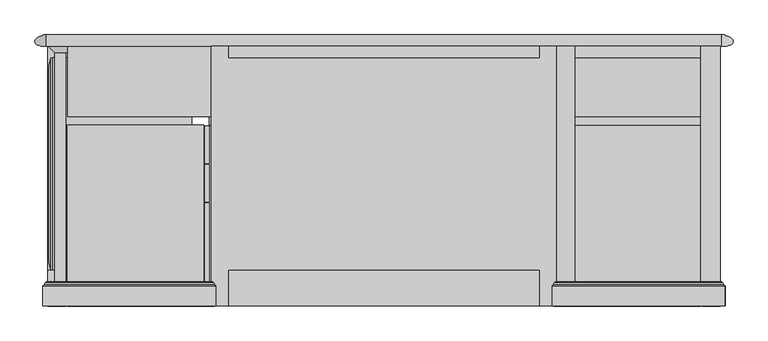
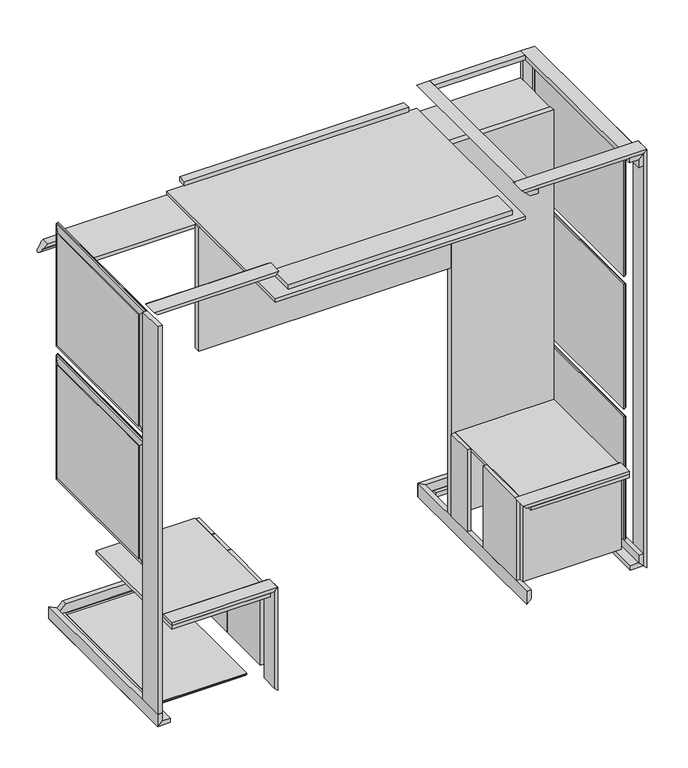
"""IFC4 building model written with IfcOpenShell, lengths in millimetres: proxy geometry, CAMBRIDGE^ADMIN 1_U-SHAPE-PARTS SOLID."""

from ifc_helpers import new_model, si_unit, frame, origin, origin_with_axes, place, context, project, spatial, polyline, circle_curve, ellipse_curve, outline, extrude, faceted_brep, source, transform, mapped, element, save
from ifc_brep_helpers import plane_surface, cylinder_surface, revolved_surface, advanced_brep


def generic_models_a3993f4f(model_context):
    return source(origin(), model_context, "Body", "SolidModel", [
        faceted_brep([(558.8, 0.0, 2266.95), (609.6, 0.0, 2266.95), (609.6, -996.95, 2266.95), (558.8, -996.95, 2266.95), (635.0, 25.4, 2292.35), (635.0, -996.95, 2292.35), (558.8, 25.4, 2292.35), (558.8, -996.95, 2292.35)], [[[0, 1, 2, 3]], [[1, 4, 5, 2]], [[4, 6, 7, 5]], [[6, 0, 3, 7]], [[3, 2, 5, 7]], [[4, 1, 0, 6]]]),
        advanced_brep(
        [(-12.7, -901.7, 2298.7), (-12.7, -904.875, 2298.7), (641.35, -904.875, 2298.7), (641.35, -901.7, 2298.7), (-19.05, -911.225, 2305.05), (647.7, -911.225, 2305.05), (-25.4, -917.575, 2311.4), (654.05, -917.575, 2311.4), (-25.4, -996.95, 2311.4), (654.05, -996.95, 2311.4), (-6.35, -901.7, 2292.35), (-6.35, -996.95, 2292.35), (635.0, -996.95, 2292.35), (635.0, -901.7, 2292.35)],
        [
            (0, 1),
            (1, 2),
            (2, 3),
            (3, 0),
            (1, 4, ellipse_curve(frame((-12.7, -911.225, 2298.7), z_axis=(0.7071067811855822, 0.0, 0.7071067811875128), x_axis=(0.7071067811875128, 0.0, -0.7071067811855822)), 8.9802561, 6.35)),
            (4, 5),
            (5, 2, ellipse_curve(frame((641.35, -911.225, 2298.7), z_axis=(-0.7071067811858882, 0.0, 0.7071067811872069), x_axis=(0.7071067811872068, 0.0, 0.7071067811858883)), 8.9802561, 6.35)),
            (4, 6, ellipse_curve(frame((-25.4, -911.225, 2311.4), z_axis=(-0.7071067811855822, 0.0, -0.7071067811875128), x_axis=(0.7071067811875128, 0.0, -0.7071067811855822)), 8.9802561, 6.35)),
            (6, 7),
            (7, 5, ellipse_curve(frame((654.05, -911.225, 2311.4), z_axis=(0.7071067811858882, 0.0, -0.7071067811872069), x_axis=(0.7071067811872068, 0.0, 0.7071067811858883)), 8.9802561, 6.35)),
            (6, 8),
            (8, 9),
            (9, 7),
            (0, 10),
            (10, 11),
            (11, 8),
            (9, 12),
            (12, 13),
            (13, 3),
            (12, 11),
            (10, 13),
        ],
        [
            plane_surface(frame((-12.7, -904.875, 2298.7), z_axis=(0.0, 0.0, 1.0), x_axis=(0.0, 1.0, 0.0))),
            cylinder_surface(frame((-12.7, -911.225, 2298.7), z_axis=(1.0, 0.0, 0.0), x_axis=(0.0, 0.0, -1.0)), 6.35),
            revolved_surface(polyline([(660.3999999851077, -911.225, 2305.05), (-31.749999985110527, -911.225, 2305.05)]), (-25.4, -911.225, 2311.4), (1.0, 0.0, 0.0)),
            plane_surface(frame((-25.4, -996.95, 2311.4), z_axis=(0.0, 0.0, 1.0), x_axis=(1.0, 0.0, 0.0))),
            plane_surface(frame((-6.35, -996.95, 2292.35), z_axis=(-0.7071067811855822, 0.0, -0.7071067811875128), x_axis=(-0.7071067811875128, 0.0, 0.7071067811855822))),
            plane_surface(frame((654.05, -996.95, 2311.4), z_axis=(0.7071067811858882, 0.0, -0.7071067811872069), x_axis=(-0.7071067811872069, 0.0, -0.7071067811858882))),
            plane_surface(frame((635.0, -996.95, 2292.35), z_axis=(0.0, 0.0, -1.0), x_axis=(-1.0, 0.0, 0.0))),
            plane_surface(frame((314.325, -996.95, 2301.875), z_axis=(0.0, -1.0, 0.0), x_axis=(0.0, 0.0, -1.0))),
            plane_surface(frame((314.325, -901.7, 2301.875), z_axis=(0.0, 1.0, 0.0), x_axis=(0.0, 0.0, 1.0))),
        ],
        [
            (0, [[1, 2, 3, 4]]),
            (1, [[5, 6, 7, -2]]),
            (2, [[8, 9, 10, -6]]),
            (3, [[-9, 11, 12, 13]]),
            (4, [[-8, -5, -1, 14, 15, 16, -11]]),
            (5, [[-10, -13, 17, 18, 19, -3, -7]]),
            (6, [[20, -15, 21, -18]]),
            (7, [[-20, -17, -12, -16]]),
            (8, [[-4, -19, -21, -14]]),
        ],
    ),
        faceted_brep([(609.6, -996.95, 2266.95), (635.0, -996.95, 2292.35), (635.0, 25.4, 2292.35), (609.6, 0.0, 2266.95), (609.6, 0.0, 2222.5), (609.6, -996.95, 2222.5), (635.0, 25.4, 2222.5), (635.0, -996.95, 2222.5)], [[[0, 1, 2, 3]], [[0, 3, 4, 5]], [[3, 2, 6, 4]], [[7, 6, 2, 1]], [[1, 0, 5, 7]], [[4, 6, 7, 5]]]),
        advanced_brep(
        [(-6.35, -901.7, 482.6), (-6.35, -904.875, 482.6), (558.8, -904.875, 482.6), (558.8, -901.7, 482.6), (-12.7, -911.225, 488.95), (558.8, -911.225, 488.95), (-19.05, -917.575, 495.3), (558.8, -917.575, 495.3), (-19.05, -996.95, 495.3), (558.8, -996.95, 495.3), (0.0, -901.7, 476.25), (0.0, -996.95, 476.25), (558.8, -996.95, 476.25), (558.8, -901.7, 476.25)],
        [
            (0, 1),
            (1, 2),
            (2, 3),
            (3, 0),
            (1, 4, ellipse_curve(frame((-6.35, -911.225, 482.6), z_axis=(0.7071067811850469, 0.0, 0.7071067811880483), x_axis=(0.707106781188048, 0.0, -0.707106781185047)), 8.9802561, 6.35)),
            (4, 5),
            (5, 2, circle_curve(frame((558.8, -911.225, 482.6), z_axis=(-1.0, 0.0, 0.0), x_axis=(0.0, 0.0, -1.0)), 6.35)),
            (4, 6, ellipse_curve(frame((-19.05, -911.225, 495.3), z_axis=(-0.7071067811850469, 0.0, -0.7071067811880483), x_axis=(0.707106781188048, 0.0, -0.707106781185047)), 8.9802561, 6.35)),
            (6, 7),
            (7, 5, circle_curve(frame((558.8, -911.225, 495.3), z_axis=(1.0, 0.0, 0.0), x_axis=(0.0, 0.0, -1.0)), 6.35)),
            (6, 8),
            (8, 9),
            (9, 7),
            (0, 10),
            (10, 11),
            (11, 8),
            (9, 12),
            (12, 13),
            (13, 3),
            (12, 11),
            (10, 13),
        ],
        [
            plane_surface(frame((-6.35, -904.875, 482.6), z_axis=(0.0, 0.0, 1.0), x_axis=(0.0, 1.0, 0.0))),
            cylinder_surface(frame((-6.35, -911.225, 482.6), z_axis=(1.0, 0.0, 0.0), x_axis=(0.0, 0.0, -1.0)), 6.35),
            revolved_surface(polyline([(558.8, -911.225, 488.95), (-25.399999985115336, -911.225, 488.95)]), (-19.05, -911.225, 495.3), (1.0, 0.0, 0.0)),
            plane_surface(frame((-19.05, -996.95, 495.3), z_axis=(0.0, 0.0, 1.0), x_axis=(1.0, 0.0, 0.0))),
            plane_surface(frame((0.0, -996.95, 476.25), z_axis=(-0.7071067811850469, 0.0, -0.7071067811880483), x_axis=(-0.7071067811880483, 0.0, 0.7071067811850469))),
            plane_surface(frame((558.8, -996.95, 495.3), z_axis=(1.0, 0.0, 0.0), x_axis=(0.0, 0.0, -1.0))),
            plane_surface(frame((558.8, -996.95, 476.25), z_axis=(0.0, 0.0, -1.0), x_axis=(-1.0, 0.0, 0.0))),
            plane_surface(frame((269.875, -996.95, 485.775), z_axis=(0.0, -1.0, 0.0), x_axis=(0.0, 0.0, -1.0))),
            plane_surface(frame((269.875, -901.7, 485.775), z_axis=(0.0, 1.0, 0.0), x_axis=(0.0, 0.0, 1.0))),
        ],
        [
            (0, [[1, 2, 3, 4]]),
            (1, [[5, 6, 7, -2]]),
            (2, [[8, 9, 10, -6]]),
            (3, [[-9, 11, 12, 13]]),
            (4, [[-8, -5, -1, 14, 15, 16, -11]]),
            (5, [[-10, -13, 17, 18, 19, -3, -7]]),
            (6, [[20, -15, 21, -18]]),
            (7, [[-20, -17, -12, -16]]),
            (8, [[-4, -19, -21, -14]]),
        ],
    ),
        faceted_brep([(609.6, -996.95, -50.8), (635.0, -996.95, -76.2), (635.0, 25.4, -76.2), (609.6, 0.0, -50.8), (565.15, 0.0, -50.8), (565.15, -996.95, -50.8), (565.15, 25.4, -76.2), (565.15, -996.95, -76.2)], [[[0, 1, 2, 3]], [[0, 3, 4, 5]], [[3, 2, 6, 4]], [[7, 6, 2, 1]], [[1, 0, 5, 7]], [[4, 6, 7, 5]]]),
        advanced_brep(
        [(-2040.3910714, 28.5587803, 2055.3589286), (-2041.525, 60.2682311, 2054.225), (669.925, 60.2682311, 2054.225), (668.7910714, 28.5587803, 2055.3589286), (-2034.4382387, 25.4, 2061.3117613), (662.8382387, 25.4, 2061.3117613), (-2041.525, 61.8557311, 2054.225), (669.925, 61.8557311, 2054.225), (-2026.6531721, 67.2686338, 2069.0968279), (655.0531721, 67.2686338, 2069.0968279), (-2023.4528814, 69.85, 2072.2971186), (651.8528814, 69.85, 2072.2971186), (641.35, 69.85, 2082.8), (641.35, 25.4, 2082.8), (-2012.95, 25.4, 2082.8), (-2012.95, 69.85, 2082.8)],
        [
            (0, 1, ellipse_curve(frame((-2041.525, 44.3932311, 2054.225), z_axis=(0.7071067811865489, 0.0, -0.7071067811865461), x_axis=(0.7071067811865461, 0.0, 0.7071067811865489)), 22.4506403, 15.875)),
            (1, 2),
            (2, 3, ellipse_curve(frame((669.925, 44.3932311, 2054.225), z_axis=(-0.7071067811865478, 0.0, -0.7071067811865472), x_axis=(0.7071067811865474, 0.0, -0.7071067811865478)), 22.4506403, 15.875)),
            (3, 0),
            (4, 0, ellipse_curve(frame((-2039.9375, 22.225, 2055.8125), z_axis=(-0.7071067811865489, 0.0, 0.7071067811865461), x_axis=(0.7071067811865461, 0.0, 0.7071067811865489)), 8.9802561, 6.35)),
            (3, 5, ellipse_curve(frame((668.3375, 22.225, 2055.8125), z_axis=(0.7071067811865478, 0.0, 0.7071067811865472), x_axis=(0.7071067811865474, 0.0, -0.7071067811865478)), 8.9802561, 6.35)),
            (5, 4),
            (1, 6),
            (6, 7),
            (7, 2),
            (6, 8),
            (8, 9),
            (9, 7),
            (8, 10, ellipse_curve(frame((-2028.825, 73.2356819, 2066.925), z_axis=(-0.7071067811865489, 0.0, 0.7071067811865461), x_axis=(0.7071067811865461, 0.0, 0.7071067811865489)), 8.9802561, 6.35)),
            (10, 11),
            (11, 9, ellipse_curve(frame((657.225, 73.2356819, 2066.925), z_axis=(0.7071067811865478, 0.0, 0.7071067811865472), x_axis=(0.7071067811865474, 0.0, -0.7071067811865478)), 8.9802561, 6.35)),
            (11, 12),
            (12, 13),
            (13, 5),
            (14, 13),
            (12, 15),
            (15, 14),
            (4, 14),
            (15, 10),
        ],
        [
            cylinder_surface(frame((-2057.4, 44.3932311, 2054.225), z_axis=(0.9999999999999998, 0.0, 0.0), x_axis=(0.0, -0.03573711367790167, -0.9993612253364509)), 15.875),
            revolved_surface(polyline([(674.687499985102, 25.400000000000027, 2061.311761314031), (-2046.287499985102, 25.400000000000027, 2061.311761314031)]), (-2057.4, 22.225, 2055.8125), (1.0, 0.0, 0.0)),
            plane_surface(frame((-2057.4, 61.8557311, 2054.225), z_axis=(0.0, 0.0, -1.0), x_axis=(0.0, -1.0, 0.0))),
            plane_surface(frame((-2057.4, 67.2686338, 2069.0968279), z_axis=(0.0, 0.9396926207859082, -0.3420201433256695), x_axis=(0.0, -0.3420201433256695, -0.9396926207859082))),
            revolved_surface(polyline([(663.5749999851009, 67.26863375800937, 2069.096827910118), (-2035.174999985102, 67.26863375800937, 2069.096827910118)]), (-2057.4, 73.2356819, 2066.925), (0.9999999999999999, 0.0, 0.0)),
            plane_surface(frame((641.35, 25.4, 2082.8), z_axis=(0.7071067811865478, 0.0, 0.7071067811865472), x_axis=(0.7071067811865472, 0.0, -0.7071067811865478))),
            plane_surface(frame((-2012.95, 25.4, 2082.8), z_axis=(0.0, 0.0, 1.0), x_axis=(1.0, 0.0, 0.0))),
            plane_surface(frame((-2057.4, 25.4, 2038.35), z_axis=(-0.7071067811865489, 0.0, 0.7071067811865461), x_axis=(0.7071067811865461, 0.0, 0.7071067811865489))),
            plane_surface(frame((-685.8, 69.85, 2060.575), z_axis=(0.0, 1.0, 0.0), x_axis=(0.0, 0.0, 1.0))),
            plane_surface(frame((-685.8, 25.4, 2060.575), z_axis=(0.0, -1.0, 0.0), x_axis=(0.0, 0.0, 1.0))),
        ],
        [
            (0, [[1, 2, 3, 4]]),
            (1, [[5, -4, 6, 7]]),
            (2, [[8, 9, 10, -2]]),
            (3, [[11, 12, 13, -9]]),
            (4, [[14, 15, 16, -12]]),
            (5, [[-6, -3, -10, -13, -16, 17, 18, 19]]),
            (6, [[20, -18, 21, 22]]),
            (7, [[-5, 23, -22, 24, -14, -11, -8, -1]]),
            (8, [[-15, -24, -21, -17]]),
            (9, [[-7, -19, -20, -23]]),
        ],
    ),
        extrude(outline(polyline([(-19.05, -50.8), (0.0, -50.8), (25.4, -76.2), (-19.05, -76.2), (-19.05, -50.8)])), frame((69.85, 0.0, 0.0), z_axis=(1.0, 0.0, 0.0), x_axis=(0.0, 1.0, 0.0)), (0.0, 0.0, 1.0), 495.3),
        advanced_brep(
        [(-1365.25, -901.7, 482.6), (-1365.25, -904.875, 482.6), (-1365.25, -904.875, -82.55), (-1365.25, -901.7, -82.55), (-1358.9, -911.225, 488.95), (-1358.9, -911.225, -88.9), (-1352.55, -917.575, 495.3), (-1352.55, -917.575, -95.25), (-1352.55, -996.95, 495.3), (-1352.55, -996.95, -95.25), (-1371.6, -901.7, 476.25), (-1371.6, -996.95, 476.25), (-1371.6, -996.95, -76.2), (-1371.6, -901.7, -76.2)],
        [
            (0, 1),
            (1, 2),
            (2, 3),
            (3, 0),
            (1, 4, ellipse_curve(frame((-1365.25, -911.225, 482.6), z_axis=(0.7071067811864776, 0.0, -0.7071067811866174), x_axis=(-0.7071067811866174, 0.0, -0.7071067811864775)), 8.9802561, 6.35)),
            (4, 5),
            (5, 2, ellipse_curve(frame((-1365.25, -911.225, -82.55), z_axis=(0.7071067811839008, 0.0, 0.7071067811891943), x_axis=(0.7071067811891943, 0.0, -0.7071067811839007)), 8.9802561, 6.35)),
            (4, 6, ellipse_curve(frame((-1352.55, -911.225, 495.3), z_axis=(-0.7071067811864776, 0.0, 0.7071067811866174), x_axis=(-0.7071067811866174, 0.0, -0.7071067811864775)), 8.9802561, 6.35)),
            (6, 7),
            (7, 5, ellipse_curve(frame((-1352.55, -911.225, -95.25), z_axis=(-0.7071067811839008, 0.0, -0.7071067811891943), x_axis=(0.7071067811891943, 0.0, -0.7071067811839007)), 8.9802561, 6.35)),
            (6, 8),
            (8, 9),
            (9, 7),
            (0, 10),
            (10, 11),
            (11, 8),
            (9, 12),
            (12, 13),
            (13, 3),
            (12, 11),
            (10, 13),
        ],
        [
            plane_surface(frame((-1365.25, -904.875, 482.6), z_axis=(1.0, 0.0, 0.0), x_axis=(0.0, 1.0, 0.0))),
            cylinder_surface(frame((-1365.25, -911.225, 482.6), z_axis=(0.0, 0.0, -1.0), x_axis=(-1.0, 0.0, 0.0)), 6.35),
            revolved_surface(polyline([(-1358.8999999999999, -911.225, -101.599999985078), (-1358.8999999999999, -911.225, 501.64999998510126)]), (-1352.55, -911.225, 495.3), (0.0, 0.0, -1.0)),
            plane_surface(frame((-1352.55, -996.95, 495.3), z_axis=(1.0, 0.0, 0.0), x_axis=(0.0, 0.0, -1.0))),
            plane_surface(frame((-1371.6, -996.95, 476.25), z_axis=(-0.7071067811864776, 0.0, 0.7071067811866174), x_axis=(0.7071067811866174, 0.0, 0.7071067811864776))),
            plane_surface(frame((-1352.55, -996.95, -95.25), z_axis=(-0.7071067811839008, 0.0, -0.7071067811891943), x_axis=(-0.7071067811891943, 0.0, 0.7071067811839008))),
            plane_surface(frame((-1371.6, -996.95, -76.2), z_axis=(-1.0, 0.0, 0.0), x_axis=(0.0, 0.0, 1.0))),
            plane_surface(frame((-1362.075, -996.95, 200.025), z_axis=(0.0, -1.0, 0.0), x_axis=(0.0, 0.0, -1.0))),
            plane_surface(frame((-1362.075, -901.7, 200.025), z_axis=(0.0, 1.0, 0.0), x_axis=(0.0, 0.0, 1.0))),
        ],
        [
            (0, [[1, 2, 3, 4]]),
            (1, [[5, 6, 7, -2]]),
            (2, [[8, 9, 10, -6]]),
            (3, [[-9, 11, 12, 13]]),
            (4, [[-8, -5, -1, 14, 15, 16, -11]]),
            (5, [[-10, -13, 17, 18, 19, -3, -7]]),
            (6, [[20, -15, 21, -18]]),
            (7, [[-20, -17, -12, -16]]),
            (8, [[-4, -19, -21, -14]]),
        ],
    ),
        faceted_brep([(609.6, 0.0, -6.35), (609.6, 0.0, -50.8), (609.6, -996.95, -50.8), (609.6, -996.95, -6.35), (635.0, 25.4, -76.2), (635.0, -996.95, -76.2), (635.0, 25.4, -6.35), (635.0, -996.95, -6.35)], [[[0, 1, 2, 3]], [[1, 4, 5, 2]], [[4, 6, 7, 5]], [[6, 0, 3, 7]], [[3, 2, 5, 7]], [[4, 1, 0, 6]]]),
        extrude(outline(polyline([(19.05, -288.13125), (19.05, -436.959375), (0.0, -436.959375), (0.0, -288.13125), (19.05, -288.13125)])), frame((0.0, 0.0, 2.38125), z_axis=(0.0, 0.0, 1.0), x_axis=(1.0, 0.0, 0.0)), (0.0, 0.0, 1.0), 471.4875),
        faceted_brep([(-1981.2, 0.0, -50.8), (-1981.2, 0.0, -6.35), (-1981.2, -996.95, -6.35), (-1981.2, -996.95, -50.8), (-2006.6, 25.4, -76.2), (-2006.6, -996.95, -76.2), (-2006.6, 25.4, -6.35), (-2006.6, -996.95, -6.35)], [[[0, 1, 2, 3]], [[4, 0, 3, 5]], [[6, 4, 5, 7]], [[1, 6, 7, 2]], [[3, 2, 7, 5]], [[0, 4, 6, 1]]]),
        extrude(outline(polyline([(635.0, 25.4), (635.0, -19.05), (609.6, -19.05), (609.6, 0.0), (635.0, 25.4)])), frame((0.0, 0.0, -6.35), z_axis=(0.0, 0.0, 1.0), x_axis=(1.0, 0.0, 0.0)), (0.0, 0.0, 1.0), 2228.85),
        faceted_brep([(635.0, -822.325, 1546.225), (631.825, -822.325, 1546.225), (631.825, -53.975, 1546.225), (635.0, -53.975, 1546.225), (623.3176131, -854.075, 1514.475), (623.3176131, -22.225, 1514.475), (615.95, -854.075, 1514.475), (615.95, -22.225, 1514.475), (635.0, -822.325, 2187.575), (631.825, -822.325, 2187.575), (623.3176131, -854.075, 2219.325), (615.95, -854.075, 2219.325), (615.95, -19.05, 1511.3), (615.95, -19.05, 2222.5), (615.95, -857.25, 2222.5), (615.95, -857.25, 1511.3), (615.95, -22.225, 2219.325), (635.0, -53.975, 2187.575), (631.825, -53.975, 2187.575), (623.3176131, -22.225, 2219.325), (609.6, -857.25, 1511.3), (609.6, -19.05, 1511.3), (609.6, -857.25, 2222.5), (609.6, -19.05, 2222.5)], [[[0, 1, 2, 3]], [[1, 4, 5, 2]], [[4, 6, 7, 5]], [[8, 9, 1, 0]], [[9, 10, 4, 1]], [[10, 11, 6, 4]], [[12, 13, 14, 15], [11, 16, 7, 6]], [[17, 18, 9, 8]], [[18, 19, 10, 9]], [[19, 16, 11, 10]], [[3, 2, 18, 17]], [[2, 5, 19, 18]], [[5, 7, 16, 19]], [[12, 15, 20, 21]], [[15, 14, 22, 20]], [[13, 12, 21, 23]], [[14, 13, 23, 22]], [[0, 3, 17, 8]], [[20, 22, 23, 21]]]),
        faceted_brep([(-2006.6, -996.95, -76.2), (-1981.2, -996.95, -50.8), (-1981.2, 0.0, -50.8), (-2006.6, 25.4, -76.2), (-1936.75, -996.95, -50.8), (-1936.75, 0.0, -50.8), (-1936.75, 25.4, -76.2), (-1936.75, -996.95, -76.2)], [[[0, 1, 2, 3]], [[2, 1, 4, 5]], [[3, 2, 5, 6]], [[6, 7, 0, 3]], [[1, 0, 7, 4]], [[6, 5, 4, 7]]]),
        extrude(outline(polyline([(22.225, -920.75), (22.225, -901.7), (558.8, -901.7), (558.8, -920.75), (22.225, -920.75)])), origin_with_axes(), (0.0, 0.0, 1.0), 457.2),
        faceted_brep([(-2003.425, -822.325, 784.225), (-2006.6, -822.325, 784.225), (-2006.6, -53.975, 784.225), (-2003.425, -53.975, 784.225), (-1994.9176131, -854.075, 752.475), (-1994.9176131, -22.225, 752.475), (-1987.55, -854.075, 752.475), (-1987.55, -22.225, 752.475), (-2003.425, -822.325, 1431.925), (-2006.6, -822.325, 1431.925), (-1994.9176131, -854.075, 1463.675), (-1987.55, -854.075, 1463.675), (-1987.55, -19.05, 1466.85), (-1987.55, -19.05, 749.3), (-1987.55, -857.25, 749.3), (-1987.55, -857.25, 1466.85), (-1987.55, -22.225, 1463.675), (-2003.425, -53.975, 1431.925), (-2006.6, -53.975, 1431.925), (-1994.9176131, -22.225, 1463.675), (-1981.2, -19.05, 749.3), (-1981.2, -857.25, 749.3), (-1981.2, -857.25, 1466.85), (-1981.2, -19.05, 1466.85)], [[[0, 1, 2, 3]], [[4, 0, 3, 5]], [[6, 4, 5, 7]], [[8, 9, 1, 0]], [[10, 8, 0, 4]], [[11, 10, 4, 6]], [[12, 13, 14, 15], [16, 11, 6, 7]], [[17, 18, 9, 8]], [[19, 17, 8, 10]], [[16, 19, 10, 11]], [[3, 2, 18, 17]], [[5, 3, 17, 19]], [[7, 5, 19, 16]], [[14, 13, 20, 21]], [[15, 14, 21, 22]], [[13, 12, 23, 20]], [[12, 15, 22, 23]], [[2, 1, 9, 18]], [[22, 21, 20, 23]]]),
        extrude(outline(polyline([(2292.35, -6.35), (2266.95, 19.05), (2266.95, 63.5), (2292.35, 63.5), (2292.35, -6.35)])), frame((0.0, -996.95, 0.0), z_axis=(0.0, 1.0, 0.0), x_axis=(0.0, 0.0, 1.0)), (0.0, 0.0, 1.0), 1022.35),
        extrude(outline(polyline([(-76.2, -857.25), (-76.2, -996.95), (-1295.4, -996.95), (-1295.4, -857.25), (-76.2, -857.25)])), frame((0.0, 0.0, 2190.75), z_axis=(0.0, 0.0, 1.0), x_axis=(1.0, 0.0, 0.0)), (0.0, 0.0, 1.0), 25.4),
        extrude(outline(polyline([(-1371.6, -254.0), (0.0, -254.0), (0.0, -285.75), (-1371.6, -285.75), (-1371.6, -254.0)])), frame((0.0, 0.0, 1428.75), z_axis=(0.0, 0.0, 1.0), x_axis=(1.0, 0.0, 0.0)), (0.0, 0.0, 1.0), 711.2),
        extrude(outline(polyline([(558.8, -285.75), (558.8, -996.95), (22.225, -996.95), (22.225, -285.75), (558.8, -285.75)])), frame((0.0, 0.0, 457.2), z_axis=(0.0, 0.0, 1.0), x_axis=(1.0, 0.0, 0.0)), (0.0, 0.0, 1.0), 19.05),
        faceted_brep([(0.0, 25.4, -76.2), (25.4, 0.0, -50.8), (25.4, -996.95, -50.8), (0.0, -996.95, -76.2), (25.4, -996.95, 0.0), (0.0, -996.95, 0.0), (25.4, 0.0, 0.0), (0.0, 25.4, 0.0)], [[[0, 1, 2, 3]], [[3, 2, 4, 5]], [[2, 1, 6, 4]], [[1, 0, 7, 6]], [[0, 3, 5, 7]], [[6, 7, 5, 4]]]),
        faceted_brep([(-1476.375, -822.325, -73.025), (-1476.375, -822.325, -76.2), (-1476.375, -53.975, -76.2), (-1476.375, -53.975, -73.025), (-1444.625, -854.075, -64.5176131), (-1444.625, -22.225, -64.5176131), (-1444.625, -854.075, -57.15), (-1444.625, -22.225, -57.15), (-1901.825, -822.325, -73.025), (-1901.825, -822.325, -76.2), (-1933.575, -854.075, -64.5176131), (-1933.575, -854.075, -57.15), (-1936.75, -19.05, -57.15), (-1441.45, -19.05, -57.15), (-1441.45, -857.25, -57.15), (-1936.75, -857.25, -57.15), (-1933.575, -22.225, -57.15), (-1901.825, -53.975, -73.025), (-1901.825, -53.975, -76.2), (-1933.575, -22.225, -64.5176131), (-1441.45, -19.05, -50.8), (-1441.45, -857.25, -50.8), (-1936.75, -857.25, -50.8), (-1936.75, -19.05, -50.8)], [[[0, 1, 2, 3]], [[4, 0, 3, 5]], [[6, 4, 5, 7]], [[8, 9, 1, 0]], [[10, 8, 0, 4]], [[11, 10, 4, 6]], [[12, 13, 14, 15], [16, 11, 6, 7]], [[17, 18, 9, 8]], [[19, 17, 8, 10]], [[16, 19, 10, 11]], [[3, 2, 18, 17]], [[5, 3, 17, 19]], [[7, 5, 19, 16]], [[14, 13, 20, 21]], [[15, 14, 21, 22]], [[13, 12, 23, 20]], [[12, 15, 22, 23]], [[2, 1, 9, 18]], [[22, 21, 20, 23]]]),
        extrude(outline(polyline([(0.0, -254.0), (558.8, -254.0), (558.8, -285.75), (0.0, -285.75), (0.0, -254.0)])), origin_with_axes(), (0.0, 0.0, 1.0), 2139.95),
        extrude(outline(polyline([(-2006.6, -857.25), (-1981.2, -857.25), (-1981.2, -996.95), (-2006.6, -996.95), (-2006.6, -857.25)])), frame((0.0, 0.0, -6.35), z_axis=(0.0, 0.0, 1.0), x_axis=(1.0, 0.0, 0.0)), (0.0, 0.0, 1.0), 2228.85),
        faceted_brep([(-1371.6, 25.4, -76.2), (-1397.0, 0.0, -50.8), (-1981.2, 0.0, -50.8), (-2006.6, 25.4, -76.2), (-1397.0, 0.0, 0.0), (-1930.4, 0.0, 0.0), (-1930.4, 25.4, 0.0), (-1371.6, 25.4, 0.0)], [[[0, 1, 2, 3]], [[2, 1, 4, 5]], [[3, 2, 5, 6]], [[3, 6, 7, 0]], [[1, 0, 7, 4]], [[6, 5, 4, 7]]]),
        advanced_brep(
        [(641.35, -901.7, 2298.7), (641.35, -904.875, 2298.7), (641.35, -904.875, -82.55), (641.35, -901.7, -82.55), (647.7, -911.225, 2305.05), (647.7, -911.225, -88.9), (654.05, -917.575, 2311.4), (654.05, -917.575, -95.25), (654.05, -996.95, 2311.4), (654.05, -996.95, -95.25), (635.0, -901.7, 2292.35), (635.0, -996.95, 2292.35), (635.0, -996.95, -76.2), (635.0, -901.7, -76.2)],
        [
            (0, 1),
            (1, 2),
            (2, 3),
            (3, 0),
            (1, 4, ellipse_curve(frame((641.35, -911.225, 2298.7), z_axis=(0.7071067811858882, 0.0, -0.7071067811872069), x_axis=(-0.7071067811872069, 0.0, -0.707106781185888)), 8.9802561, 6.35)),
            (4, 5),
            (5, 2, ellipse_curve(frame((641.35, -911.225, -82.55), z_axis=(0.7071067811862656, 0.0, 0.7071067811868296), x_axis=(0.7071067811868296, 0.0, -0.7071067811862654)), 8.9802561, 6.35)),
            (4, 6, ellipse_curve(frame((654.05, -911.225, 2311.4), z_axis=(-0.7071067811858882, 0.0, 0.7071067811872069), x_axis=(-0.7071067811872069, 0.0, -0.707106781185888)), 8.9802561, 6.35)),
            (6, 7),
            (7, 5, ellipse_curve(frame((654.05, -911.225, -95.25), z_axis=(-0.7071067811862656, 0.0, -0.7071067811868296), x_axis=(0.7071067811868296, 0.0, -0.7071067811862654)), 8.9802561, 6.35)),
            (6, 8),
            (8, 9),
            (9, 7),
            (0, 10),
            (10, 11),
            (11, 8),
            (12, 11),
            (10, 13),
            (13, 12),
            (9, 12),
            (13, 3),
        ],
        [
            plane_surface(frame((641.35, -904.875, 2298.7), z_axis=(1.0, 0.0, 0.0), x_axis=(0.0, 1.0, 0.0))),
            cylinder_surface(frame((641.35, -911.225, 2298.7), z_axis=(0.0, 0.0, -1.0), x_axis=(-1.0, 0.0, 0.0)), 6.35),
            revolved_surface(polyline([(647.6999999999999, -911.225, -101.5999999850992), (647.6999999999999, -911.225, 2317.749999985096)]), (654.05, -911.225, 2311.4), (0.0, 0.0, -1.0)),
            plane_surface(frame((654.05, -996.95, 2311.4), z_axis=(1.0, 0.0, 0.0), x_axis=(0.0, 0.0, -1.0))),
            plane_surface(frame((635.0, -996.95, 2292.35), z_axis=(-0.7071067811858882, 0.0, 0.7071067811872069), x_axis=(0.7071067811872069, 0.0, 0.7071067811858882))),
            plane_surface(frame((635.0, -996.95, -76.2), z_axis=(-1.0, 0.0, 0.0), x_axis=(0.0, 0.0, 1.0))),
            plane_surface(frame((654.05, -996.95, -95.25), z_axis=(-0.7071067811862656, 0.0, -0.7071067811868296), x_axis=(-0.7071067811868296, 0.0, 0.7071067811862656))),
            plane_surface(frame((644.525, -996.95, 1108.075), z_axis=(0.0, -1.0, 0.0), x_axis=(0.0, 0.0, -1.0))),
            plane_surface(frame((644.525, -901.7, 1108.075), z_axis=(0.0, 1.0, 0.0), x_axis=(0.0, 0.0, 1.0))),
        ],
        [
            (0, [[1, 2, 3, 4]]),
            (1, [[5, 6, 7, -2]]),
            (2, [[8, 9, 10, -6]]),
            (3, [[-9, 11, 12, 13]]),
            (4, [[-8, -5, -1, 14, 15, 16, -11]]),
            (5, [[17, -15, 18, 19]]),
            (6, [[-10, -13, 20, -19, 21, -3, -7]]),
            (7, [[-12, -16, -17, -20]]),
            (8, [[-4, -21, -18, -14]]),
        ],
    ),
        extrude(outline(polyline([(-1390.65, -899.31875), (-1390.65, -590.55), (-1371.6, -590.55), (-1371.6, -899.31875), (-1390.65, -899.31875)])), frame((0.0, 0.0, 2.38125), z_axis=(0.0, 0.0, 1.0), x_axis=(1.0, 0.0, 0.0)), (0.0, 0.0, 1.0), 471.4875),
        extrude(outline(polyline([(-1930.4, -996.95), (-1930.4, -285.75), (-1393.825, -285.75), (-1393.825, -996.95), (-1930.4, -996.95)])), frame((0.0, 0.0, 457.2), z_axis=(0.0, 0.0, 1.0), x_axis=(1.0, 0.0, 0.0)), (0.0, 0.0, 1.0), 19.05),
        faceted_brep([(635.0, -822.325, 784.225), (631.825, -822.325, 784.225), (631.825, -53.975, 784.225), (635.0, -53.975, 784.225), (623.3176131, -854.075, 752.475), (623.3176131, -22.225, 752.475), (615.95, -854.075, 752.475), (615.95, -22.225, 752.475), (635.0, -822.325, 1431.925), (631.825, -822.325, 1431.925), (623.3176131, -854.075, 1463.675), (615.95, -854.075, 1463.675), (615.95, -19.05, 749.3), (615.95, -19.05, 1466.85), (615.95, -857.25, 1466.85), (615.95, -857.25, 749.3), (615.95, -22.225, 1463.675), (635.0, -53.975, 1431.925), (631.825, -53.975, 1431.925), (623.3176131, -22.225, 1463.675), (609.6, -857.25, 749.3), (609.6, -19.05, 749.3), (609.6, -857.25, 1466.85), (609.6, -19.05, 1466.85)], [[[0, 1, 2, 3]], [[1, 4, 5, 2]], [[4, 6, 7, 5]], [[8, 9, 1, 0]], [[9, 10, 4, 1]], [[10, 11, 6, 4]], [[12, 13, 14, 15], [11, 16, 7, 6]], [[17, 18, 9, 8]], [[18, 19, 10, 9]], [[19, 16, 11, 10]], [[3, 2, 18, 17]], [[2, 5, 19, 18]], [[5, 7, 16, 19]], [[12, 15, 20, 21]], [[15, 14, 22, 20]], [[13, 12, 21, 23]], [[14, 13, 23, 22]], [[0, 3, 17, 8]], [[20, 22, 23, 21]]]),
        faceted_brep([(25.4, 0.0, -50.8), (0.0, 25.4, -76.2), (635.0, 25.4, -76.2), (609.6, 0.0, -50.8), (558.8, 0.0, 0.0), (25.4, 0.0, 0.0), (558.8, 25.4, 0.0), (0.0, 25.4, 0.0)], [[[0, 1, 2, 3]], [[0, 3, 4, 5]], [[3, 2, 6, 4]], [[6, 2, 1, 7]], [[1, 0, 5, 7]], [[4, 6, 7, 5]]]),
        extrude(outline(polyline([(-1365.25, -996.95), (-1365.25, 25.4), (-6.35, 25.4), (-6.35, -996.95), (-1365.25, -996.95)])), frame((0.0, 0.0, 2139.95), z_axis=(0.0, 0.0, 1.0), x_axis=(1.0, 0.0, 0.0)), (0.0, 0.0, 1.0), 19.05),
        extrude(outline(polyline([(-1390.65, -588.16875), (-1390.65, -439.340625), (-1371.6, -439.340625), (-1371.6, -588.16875), (-1390.65, -588.16875)])), frame((0.0, 0.0, 2.38125), z_axis=(0.0, 0.0, 1.0), x_axis=(1.0, 0.0, 0.0)), (0.0, 0.0, 1.0), 471.4875),
        extrude(outline(polyline([(558.8, 25.4), (558.8, -19.05), (63.5, -19.05), (63.5, 25.4), (558.8, 25.4)])), frame((0.0, 0.0, 2266.95), z_axis=(0.0, 0.0, 1.0), x_axis=(1.0, 0.0, 0.0)), (0.0, 0.0, 1.0), 25.4),
        faceted_brep([(-2003.425, -822.325, 1546.225), (-2006.6, -822.325, 1546.225), (-2006.6, -53.975, 1546.225), (-2003.425, -53.975, 1546.225), (-1994.9176131, -854.075, 1514.475), (-1994.9176131, -22.225, 1514.475), (-1987.55, -854.075, 1514.475), (-1987.55, -22.225, 1514.475), (-2003.425, -822.325, 2187.575), (-2006.6, -822.325, 2187.575), (-1994.9176131, -854.075, 2219.325), (-1987.55, -854.075, 2219.325), (-1987.55, -19.05, 2222.5), (-1987.55, -19.05, 1511.3), (-1987.55, -857.25, 1511.3), (-1987.55, -857.25, 2222.5), (-1987.55, -22.225, 2219.325), (-2003.425, -53.975, 2187.575), (-2006.6, -53.975, 2187.575), (-1994.9176131, -22.225, 2219.325), (-1981.2, -19.05, 1511.3), (-1981.2, -857.25, 1511.3), (-1981.2, -857.25, 2222.5), (-1981.2, -19.05, 2222.5)], [[[0, 1, 2, 3]], [[4, 0, 3, 5]], [[6, 4, 5, 7]], [[8, 9, 1, 0]], [[10, 8, 0, 4]], [[11, 10, 4, 6]], [[12, 13, 14, 15], [16, 11, 6, 7]], [[17, 18, 9, 8]], [[19, 17, 8, 10]], [[16, 19, 10, 11]], [[3, 2, 18, 17]], [[5, 3, 17, 19]], [[7, 5, 19, 16]], [[14, 13, 20, 21]], [[15, 14, 21, 22]], [[13, 12, 23, 20]], [[12, 15, 22, 23]], [[2, 1, 9, 18]], [[22, 21, 20, 23]]]),
        extrude(outline(polyline([(19.05, -590.55), (19.05, -899.31875), (0.0, -899.31875), (0.0, -590.55), (19.05, -590.55)])), frame((0.0, 0.0, 2.38125), z_axis=(0.0, 0.0, 1.0), x_axis=(1.0, 0.0, 0.0)), (0.0, 0.0, 1.0), 471.4875),
        faceted_brep([(558.8, 25.4, 2292.35), (558.8, 0.0, 2266.95), (609.6, 0.0, 2266.95), (635.0, 25.4, 2292.35), (609.6, 0.0, -50.8), (635.0, 25.4, -76.2), (558.8, 0.0, 0.0), (558.8, 25.4, 0.0)], [[[0, 1, 2, 3]], [[3, 2, 4, 5]], [[2, 1, 6, 4]], [[1, 0, 7, 6]], [[5, 4, 6, 7]], [[5, 7, 0, 3]]]),
        advanced_brep(
        [(-1930.4, -901.7, 482.6), (-1930.4, -904.875, 482.6), (-1365.25, -904.875, 482.6), (-1365.25, -901.7, 482.6), (-1930.4, -911.225, 488.95), (-1358.9, -911.225, 488.95), (-1930.4, -917.575, 495.3), (-1352.55, -917.575, 495.3), (-1352.55, -996.95, 495.3), (-1371.6, -996.95, 476.25), (-1371.6, -901.7, 476.25), (-1930.4, -996.95, 495.3), (-1930.4, -901.7, 476.25), (-1930.4, -996.95, 476.25)],
        [
            (0, 1),
            (1, 2),
            (2, 3),
            (3, 0),
            (1, 4, circle_curve(frame((-1930.4, -911.225, 482.6), z_axis=(1.0, 0.0, 0.0), x_axis=(0.0, 0.0, -1.0)), 6.35)),
            (4, 5),
            (5, 2, ellipse_curve(frame((-1365.25, -911.225, 482.6), z_axis=(-0.7071067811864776, 0.0, 0.7071067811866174), x_axis=(0.7071067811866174, 0.0, 0.7071067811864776)), 8.9802561, 6.35)),
            (4, 6, circle_curve(frame((-1930.4, -911.225, 495.3), z_axis=(-1.0, 0.0, 0.0), x_axis=(0.0, 0.0, -1.0)), 6.35)),
            (6, 7),
            (7, 5, ellipse_curve(frame((-1352.55, -911.225, 495.3), z_axis=(0.7071067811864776, 0.0, -0.7071067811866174), x_axis=(0.7071067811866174, 0.0, 0.7071067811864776)), 8.9802561, 6.35)),
            (7, 8),
            (8, 9),
            (9, 10),
            (10, 3),
            (6, 11),
            (11, 8),
            (0, 12),
            (12, 13),
            (13, 11),
            (9, 13),
            (12, 10),
        ],
        [
            plane_surface(frame((-1930.4, -904.875, 482.6), z_axis=(0.0, 0.0, 1.0), x_axis=(0.0, 1.0, 0.0))),
            cylinder_surface(frame((-1930.4, -911.225, 482.6), z_axis=(1.0, 0.0, 0.0), x_axis=(0.0, 0.0, -1.0)), 6.35),
            revolved_surface(polyline([(-1346.2000000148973, -911.225, 488.95), (-1930.4, -911.225, 488.95)]), (-1930.4, -911.225, 495.3), (1.0, 0.0, 0.0)),
            plane_surface(frame((-1352.55, -996.95, 495.3), z_axis=(0.7071067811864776, 0.0, -0.7071067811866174), x_axis=(-0.7071067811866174, 0.0, -0.7071067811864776))),
            plane_surface(frame((-1930.4, -996.95, 495.3), z_axis=(0.0, 0.0, 1.0), x_axis=(1.0, 0.0, 0.0))),
            plane_surface(frame((-1930.4, -996.95, 476.25), z_axis=(-1.0, 0.0, 0.0), x_axis=(0.0, 0.0, 1.0))),
            plane_surface(frame((-1371.6, -996.95, 476.25), z_axis=(0.0, 0.0, -1.0), x_axis=(-1.0, 0.0, 0.0))),
            plane_surface(frame((-1641.475, -996.95, 485.775), z_axis=(0.0, -1.0, 0.0), x_axis=(0.0, 0.0, -1.0))),
            plane_surface(frame((-1641.475, -901.7, 485.775), z_axis=(0.0, 1.0, 0.0), x_axis=(0.0, 0.0, 1.0))),
        ],
        [
            (0, [[1, 2, 3, 4]]),
            (1, [[5, 6, 7, -2]]),
            (2, [[8, 9, 10, -6]]),
            (3, [[-3, -7, -10, 11, 12, 13, 14]]),
            (4, [[-9, 15, 16, -11]]),
            (5, [[-1, 17, 18, 19, -15, -8, -5]]),
            (6, [[20, -18, 21, -13]]),
            (7, [[-16, -19, -20, -12]]),
            (8, [[-4, -14, -21, -17]]),
        ],
    ),
        advanced_brep(
        [(-2012.95, -901.7, 2298.7), (-2012.95, -904.875, 2298.7), (-1358.9, -904.875, 2298.7), (-1358.9, -901.7, 2298.7), (-2019.3, -911.225, 2305.05), (-1352.55, -911.225, 2305.05), (-2025.65, -917.575, 2311.4), (-1346.2, -917.575, 2311.4), (-2025.65, -996.95, 2311.4), (-1346.2, -996.95, 2311.4), (-2006.6, -901.7, 2292.35), (-2006.6, -996.95, 2292.35), (-1365.25, -996.95, 2292.35), (-1365.25, -901.7, 2292.35)],
        [
            (0, 1),
            (1, 2),
            (2, 3),
            (3, 0),
            (1, 4, ellipse_curve(frame((-2012.95, -911.225, 2298.7), z_axis=(0.7071067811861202, 0.0, 0.7071067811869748), x_axis=(0.7071067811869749, 0.0, -0.7071067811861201)), 8.9802561, 6.35)),
            (4, 5),
            (5, 2, ellipse_curve(frame((-1358.9, -911.225, 2298.7), z_axis=(-0.7071067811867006, 0.0, 0.7071067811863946), x_axis=(0.7071067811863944, 0.0, 0.7071067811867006)), 8.9802561, 6.35)),
            (4, 6, ellipse_curve(frame((-2025.65, -911.225, 2311.4), z_axis=(-0.7071067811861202, 0.0, -0.7071067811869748), x_axis=(0.7071067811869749, 0.0, -0.7071067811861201)), 8.9802561, 6.35)),
            (6, 7),
            (7, 5, ellipse_curve(frame((-1346.2, -911.225, 2311.4), z_axis=(0.7071067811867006, 0.0, -0.7071067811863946), x_axis=(0.7071067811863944, 0.0, 0.7071067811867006)), 8.9802561, 6.35)),
            (6, 8),
            (8, 9),
            (9, 7),
            (0, 10),
            (10, 11),
            (11, 8),
            (9, 12),
            (12, 13),
            (13, 3),
            (12, 11),
            (10, 13),
        ],
        [
            plane_surface(frame((-2012.95, -904.875, 2298.7), z_axis=(0.0, 0.0, 1.0), x_axis=(0.0, 1.0, 0.0))),
            cylinder_surface(frame((-2012.95, -911.225, 2298.7), z_axis=(1.0, 0.0, 0.0), x_axis=(0.0, 0.0, -1.0)), 6.35),
            revolved_surface(polyline([(-1339.8500000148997, -911.225, 2305.05), (-2031.999999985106, -911.225, 2305.05)]), (-2025.65, -911.225, 2311.4), (1.0, 0.0, 0.0)),
            plane_surface(frame((-2025.65, -996.95, 2311.4), z_axis=(0.0, 0.0, 1.0), x_axis=(1.0, 0.0, 0.0))),
            plane_surface(frame((-2006.6, -996.95, 2292.35), z_axis=(-0.7071067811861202, 0.0, -0.7071067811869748), x_axis=(-0.7071067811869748, 0.0, 0.7071067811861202))),
            plane_surface(frame((-1346.2, -996.95, 2311.4), z_axis=(0.7071067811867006, 0.0, -0.7071067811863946), x_axis=(-0.7071067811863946, 0.0, -0.7071067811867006))),
            plane_surface(frame((-1365.25, -996.95, 2292.35), z_axis=(0.0, 0.0, -1.0), x_axis=(-1.0, 0.0, 0.0))),
            plane_surface(frame((-1685.925, -996.95, 2301.875), z_axis=(0.0, -1.0, 0.0), x_axis=(0.0, 0.0, -1.0))),
            plane_surface(frame((-1685.925, -901.7, 2301.875), z_axis=(0.0, 1.0, 0.0), x_axis=(0.0, 0.0, 1.0))),
        ],
        [
            (0, [[1, 2, 3, 4]]),
            (1, [[5, 6, 7, -2]]),
            (2, [[8, 9, 10, -6]]),
            (3, [[-9, 11, 12, 13]]),
            (4, [[-8, -5, -1, 14, 15, 16, -11]]),
            (5, [[-10, -13, 17, 18, 19, -3, -7]]),
            (6, [[20, -15, 21, -18]]),
            (7, [[-20, -17, -12, -16]]),
            (8, [[-4, -19, -21, -14]]),
        ],
    ),
        extrude(outline(polyline([(557.2125, -252.4125), (-1928.8125, -252.4125), (-1928.8125, 23.8125), (557.2125, 23.8125), (557.2125, -252.4125)])), frame((0.0, 0.0, 2117.725), z_axis=(0.0, 0.0, 1.0), x_axis=(1.0, 0.0, 0.0)), (0.0, 0.0, 1.0), 19.05),
        extrude(outline(polyline([(-1295.4, -19.05), (-1295.4, 25.4), (-76.2, 25.4), (-76.2, -19.05), (-1295.4, -19.05)])), frame((0.0, 0.0, 2190.75), z_axis=(0.0, 0.0, 1.0), x_axis=(1.0, 0.0, 0.0)), (0.0, 0.0, 1.0), 25.4),
        extrude(outline(polyline([(-1390.65, -436.959375), (-1390.65, -288.13125), (-1371.6, -288.13125), (-1371.6, -436.959375), (-1390.65, -436.959375)])), frame((0.0, 0.0, 2.38125), z_axis=(0.0, 0.0, 1.0), x_axis=(1.0, 0.0, 0.0)), (0.0, 0.0, 1.0), 471.4875),
        faceted_brep([(635.0, -822.325, 28.575), (631.825, -822.325, 28.575), (631.825, -53.975, 28.575), (635.0, -53.975, 28.575), (623.3176131, -854.075, -3.175), (623.3176131, -22.225, -3.175), (615.95, -854.075, -3.175), (615.95, -22.225, -3.175), (635.0, -822.325, 669.925), (631.825, -822.325, 669.925), (623.3176131, -854.075, 701.675), (615.95, -854.075, 701.675), (615.95, -19.05, -6.35), (615.95, -19.05, 704.85), (615.95, -857.25, 704.85), (615.95, -857.25, -6.35), (615.95, -22.225, 701.675), (635.0, -53.975, 669.925), (631.825, -53.975, 669.925), (623.3176131, -22.225, 701.675), (609.6, -857.25, -6.35), (609.6, -19.05, -6.35), (609.6, -857.25, 704.85), (609.6, -19.05, 704.85)], [[[0, 1, 2, 3]], [[1, 4, 5, 2]], [[4, 6, 7, 5]], [[8, 9, 1, 0]], [[9, 10, 4, 1]], [[10, 11, 6, 4]], [[12, 13, 14, 15], [11, 16, 7, 6]], [[17, 18, 9, 8]], [[18, 19, 10, 9]], [[19, 16, 11, 10]], [[3, 2, 18, 17]], [[2, 5, 19, 18]], [[5, 7, 16, 19]], [[12, 15, 20, 21]], [[15, 14, 22, 20]], [[13, 12, 21, 23]], [[14, 13, 23, 22]], [[0, 3, 17, 8]], [[20, 22, 23, 21]]]),
    ])


if __name__ == "__main__":
    model = new_model("IFC4")
    model_context = context("Model", 3, world=origin())
    ifc_project = project(units=[si_unit("LENGTHUNIT", "METRE", prefix="MILLI")], contexts=[model_context])
    site = spatial("IfcSite", under=ifc_project)
    building = spatial("IfcBuilding", under=site)
    placement = place(None, origin())
    generic_models_shape = generic_models_a3993f4f(model_context)
    element("IfcBuildingElementProxy", 1, Name="CAMBRIDGE^ADMIN 1_U-SHAPE-PARTS SOLID", ObjectType="CAMBRIDGE^ADMIN 1_U-SHAPE-PARTS SOLID", at=placement, inside=building, context=model_context, shape_type="MappedRepresentation", body=[
        mapped(generic_models_shape, transform((0.0, 0.0, 0.0), x_axis=(1.0, 0.0, 0.0), y_axis=(0.0, 1.0, 0.0), z_axis=(0.0, 0.0, 1.0))),
    ])
    save(model, "model.ifc")
